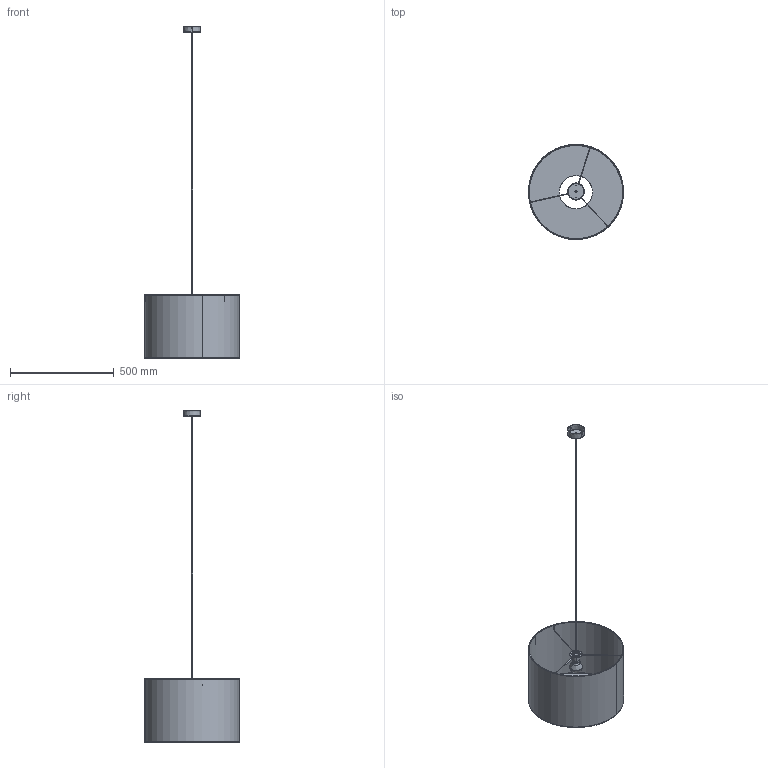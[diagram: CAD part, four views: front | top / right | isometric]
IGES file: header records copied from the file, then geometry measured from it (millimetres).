
Start section: SolidWorks IGES file using analytic representation for surfaces
Global section: file name: Z:\PRODUKT\Modele_3D_WWW\_KOLEKCJE_WWW\HOTEL\HOTEL-MOOD-11783-11791\Z³o¿enie HOTEL-9298 PM.IGS; native system: SolidWorks 2024; preprocessor: SolidWorks 2024; author: anna.bielnik; date: 250424.145943; units: millimetre
Bounding box: 458.77 x 458.49 x 1601.23 mm (x, y, z)
Surface area: 1263894.8 mm2 (no closed solid volume)
Topology: 0 solids, 0 shells, 163 faces, 2380 edges, 2374 vertices
Faces by surface type: bspline 85, revolution 78
